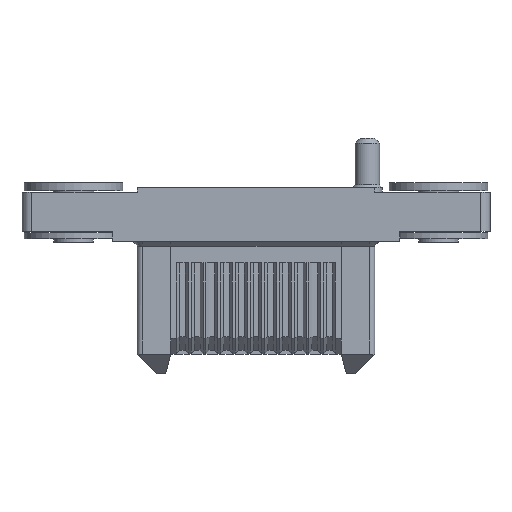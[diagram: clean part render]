
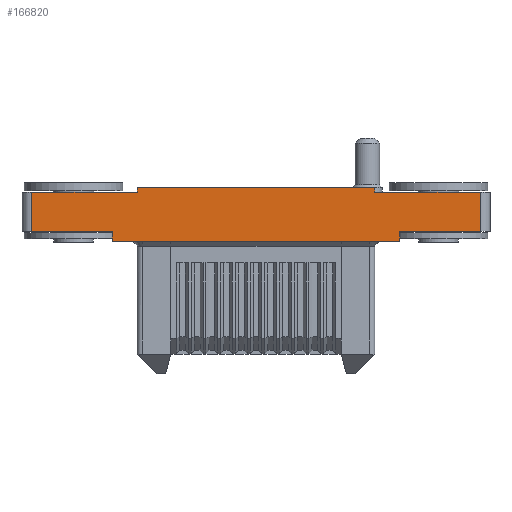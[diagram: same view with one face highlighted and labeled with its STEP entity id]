
A CAD part, front view. The second image highlights one B-rep face of the part: STEP entity #166820.
In plain terms, the highlighted planar face has unit normal (0, -1, 0).
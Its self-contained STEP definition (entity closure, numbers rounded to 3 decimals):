
#18180=CARTESIAN_POINT('',(37.372,-4.086,
-5.5));
#18190=VERTEX_POINT('',#18180);
#19020=CARTESIAN_POINT('',(8.072,-4.086,
-5.5));
#19030=VERTEX_POINT('',#19020);
#19060=CARTESIAN_POINT('',(41.872,-4.086,-5.5));
#19070=DIRECTION('',(-1.,0.,0.));
#19080=VECTOR('',#19070,1.);
#19090=LINE('',#19060,#19080);
#19100=EDGE_CURVE('',#18190,#19030,#19090,.T.);
#90190=CARTESIAN_POINT('',(10.622,-4.086,
0.));
#90200=DIRECTION('',(0.,0.,-1.));
#90210=VECTOR('',#90200,1.);
#90220=LINE('',#90190,#90210);
#90230=CARTESIAN_POINT('',(10.622,-4.086,
0.));
#90240=VERTEX_POINT('',#90230);
#90250=CARTESIAN_POINT('',(10.622,-4.086,-0.5));
#90260=VERTEX_POINT('',#90250);
#90270=EDGE_CURVE('',#90240,#90260,#90220,.T.);
#90720=CARTESIAN_POINT('',(8.072,-4.086,-4.5));
#90730=VERTEX_POINT('',#90720);
#90760=CARTESIAN_POINT('',(8.072,-4.086,-5.5));
#90770=DIRECTION('',(0.,0.,1.));
#90780=VECTOR('',#90770,1.);
#90790=LINE('',#90760,#90780);
#90800=EDGE_CURVE('',#19030,#90730,#90790,.T.);
#90970=CARTESIAN_POINT('',(-0.128,-4.086,-4.5));
#90980=VERTEX_POINT('',#90970);
#91140=CARTESIAN_POINT('',(-0.128,-4.086,-0.5));
#91150=VERTEX_POINT('',#91140);
#91180=CARTESIAN_POINT('',(-0.128,-4.086,-4.5));
#91190=DIRECTION('',(0.,0.,1.));
#91200=VECTOR('',#91190,1.);
#91210=LINE('',#91180,#91200);
#91220=EDGE_CURVE('',#90980,#91150,#91210,.T.);
#94640=CARTESIAN_POINT('',(0.,-4.086,-0.5));
#94650=DIRECTION('',(1.,0.,0.));
#94660=VECTOR('',#94650,1.);
#94670=LINE('',#94640,#94660);
#94680=EDGE_CURVE('',#91150,#90260,#94670,.T.);
#95090=CARTESIAN_POINT('',(0.,-4.086,-4.5));
#95100=DIRECTION('',(-1.,0.,0.));
#95110=VECTOR('',#95100,1.);
#95120=LINE('',#95090,#95110);
#95130=EDGE_CURVE('',#90730,#90980,#95120,.T.);
#112730=CARTESIAN_POINT('',(-13.5,-4.086,-4.5));
#112740=DIRECTION('',(-1.,0.,0.));
#112750=VECTOR('',#112740,1.);
#112760=LINE('',#112730,#112750);
#112770=CARTESIAN_POINT('',(45.572,-4.086,-4.5));
#112780=VERTEX_POINT('',#112770);
#112790=CARTESIAN_POINT('',(37.372,-4.086,-4.5));
#112800=VERTEX_POINT('',#112790);
#112810=EDGE_CURVE('',#112780,#112800,#112760,.T.);
#118130=CARTESIAN_POINT('',(45.572,-4.086,
-0.5));
#118140=VERTEX_POINT('',#118130);
#118170=CARTESIAN_POINT('',(-13.5,-4.086,
-0.5));
#118180=DIRECTION('',(1.,0.,0.));
#118190=VECTOR('',#118180,1.);
#118200=LINE('',#118170,#118190);
#118210=CARTESIAN_POINT('',(34.822,-4.086,
-0.5));
#118220=VERTEX_POINT('',#118210);
#118230=EDGE_CURVE('',#118220,#118140,#118200,.T.);
#119840=CARTESIAN_POINT('',(34.822,-4.086,
0.));
#119850=VERTEX_POINT('',#119840);
#119880=CARTESIAN_POINT('',(34.822,-4.086,
0.));
#119890=DIRECTION('',(-1.,0.,0.));
#119900=VECTOR('',#119890,1.);
#119910=LINE('',#119880,#119900);
#119920=CARTESIAN_POINT('',(34.072,-4.086,
0.));
#119930=VERTEX_POINT('',#119920);
#119940=EDGE_CURVE('',#119850,#119930,#119910,.T.);
#120120=CARTESIAN_POINT('',(34.822,-4.086,
0.));
#120130=DIRECTION('',(0.,0.,-1.));
#120140=VECTOR('',#120130,1.);
#120150=LINE('',#120120,#120140);
#120160=EDGE_CURVE('',#119850,#118220,#120150,.T.);
#120510=CARTESIAN_POINT('',(37.072,-4.086,
0.));
#120520=DIRECTION('',(-1.,0.,0.));
#120530=VECTOR('',#120520,1.);
#120540=LINE('',#120510,#120530);
#120550=EDGE_CURVE('',#119930,#90240,#120540,.T.);
#166520=CARTESIAN_POINT('',(12.997,-4.086,-2.75));
#166530=DIRECTION('',(0.,-1.,-0.));
#166540=DIRECTION('',(-1.,0.,0.));
#166550=AXIS2_PLACEMENT_3D('',#166520,#166530,#166540);
#166560=PLANE('',#166550);
#166570=ORIENTED_EDGE('',*,*,#90800,.F.);
#166580=ORIENTED_EDGE('',*,*,#95130,.F.);
#166590=ORIENTED_EDGE('',*,*,#91220,.F.);
#166600=ORIENTED_EDGE('',*,*,#94680,.F.);
#166610=ORIENTED_EDGE('',*,*,#90270,.T.);
#166620=ORIENTED_EDGE('',*,*,#120550,.T.);
#166630=ORIENTED_EDGE('',*,*,#119940,.T.);
#166640=ORIENTED_EDGE('',*,*,#120160,.F.);
#166650=ORIENTED_EDGE('',*,*,#118230,.F.);
#166660=CARTESIAN_POINT('',(45.572,-4.086,
-0.5));
#166670=DIRECTION('',(0.,0.,-1.));
#166680=VECTOR('',#166670,1.);
#166690=LINE('',#166660,#166680);
#166700=EDGE_CURVE('',#118140,#112780,#166690,.T.);
#166710=ORIENTED_EDGE('',*,*,#166700,.F.);
#166720=ORIENTED_EDGE('',*,*,#112810,.F.);
#166730=CARTESIAN_POINT('',(37.372,-4.086,-4.5));
#166740=DIRECTION('',(0.,0.,-1.));
#166750=VECTOR('',#166740,1.);
#166760=LINE('',#166730,#166750);
#166770=EDGE_CURVE('',#112800,#18190,#166760,.T.);
#166780=ORIENTED_EDGE('',*,*,#166770,.F.);
#166790=ORIENTED_EDGE('',*,*,#19100,.F.);
#166800=EDGE_LOOP('',(#166790,#166780,#166720,#166710,#166650,#166640,
#166630,#166620,#166610,#166600,#166590,#166580,#166570));
#166810=FACE_OUTER_BOUND('',#166800,.T.);
#166820=ADVANCED_FACE('',(#166810),#166560,.T.);
